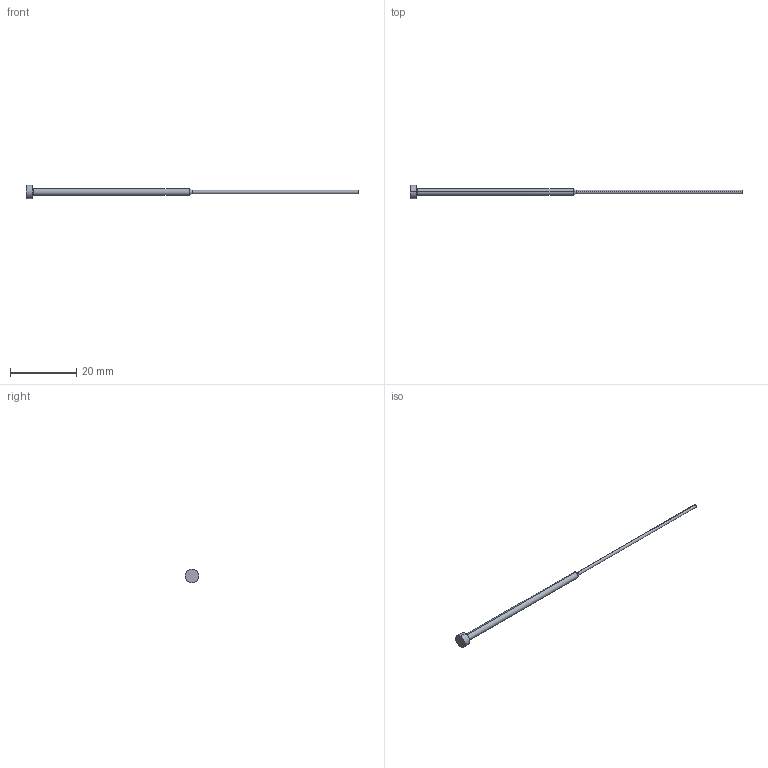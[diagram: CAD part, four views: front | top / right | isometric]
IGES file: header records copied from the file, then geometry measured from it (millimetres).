
Start section: START RECORD GO HERE.
Global section: file name: 359-1X2X100.igs; native system: DASSAULT SYSTEMES CATIA V5 R20 - www.3ds.com; preprocessor: CATIA Version 5 Release 20 ; author: Utente; organization: NB04-ASUS; date: 20210514.202347; units: millimetre
Bounding box: 100 x 4 x 4 mm (x, y, z)
Surface area: 505.3 mm2 (no closed solid volume)
Topology: 0 solids, 0 shells, 13 faces, 76 edges, 76 vertices
Faces by surface type: revolution 10, plane 3
